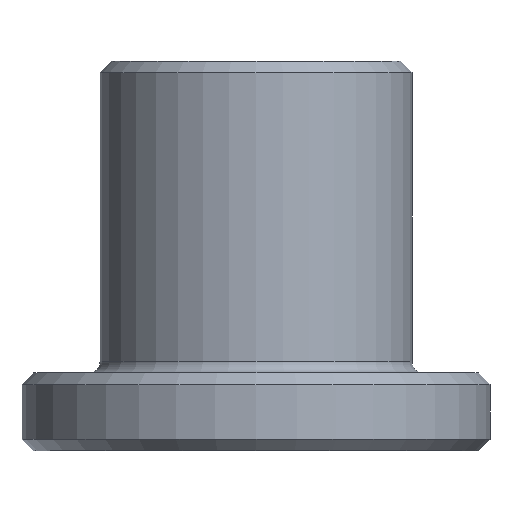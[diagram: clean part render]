
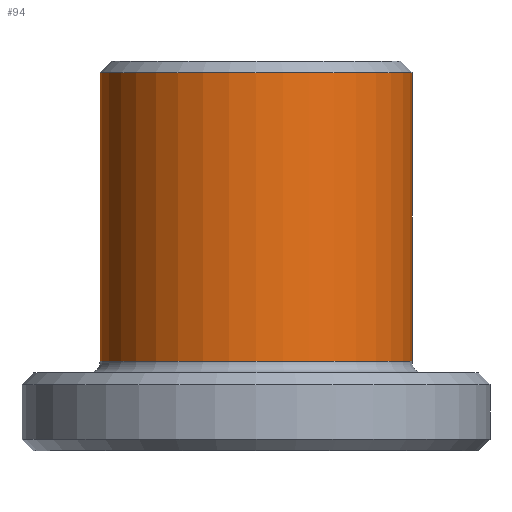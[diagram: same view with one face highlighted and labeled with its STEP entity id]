
A CAD part, front view. The second image highlights one B-rep face of the part: STEP entity #94.
In plain terms, the highlighted cylindrical face has radius 4 mm (diameter 8 mm), a partial arc.
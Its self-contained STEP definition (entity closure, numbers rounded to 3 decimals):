
#19 = DIRECTION ( 'NONE',  ( 0., 0., 1. ) ) ;
#40 = EDGE_CURVE ( 'NONE', #423, #520, #147, .T. ) ;
#44 = CIRCLE ( 'NONE', #501, 4. ) ;
#57 = CARTESIAN_POINT ( 'NONE',  ( -4., 0., -7.7 ) ) ;
#59 = ORIENTED_EDGE ( 'NONE', *, *, #514, .F. ) ;
#72 = DIRECTION ( 'NONE',  ( 0., 0., -1. ) ) ;
#84 = ORIENTED_EDGE ( 'NONE', *, *, #453, .T. ) ;
#94 = ADVANCED_FACE ( 'NONE', ( #532 ), #334, .T. ) ;
#113 = EDGE_CURVE ( 'NONE', #268, #423, #44, .T. ) ;
#126 = DIRECTION ( 'NONE',  ( 0., 0., 1. ) ) ;
#147 = LINE ( 'NONE', #288, #319 ) ;
#150 = DIRECTION ( 'NONE',  ( 1., 0., 0. ) ) ;
#151 = LINE ( 'NONE', #160, #193 ) ;
#160 = CARTESIAN_POINT ( 'NONE',  ( -4., 0., 0. ) ) ;
#161 = CARTESIAN_POINT ( 'NONE',  ( 0., 0., -7.7 ) ) ;
#162 = VERTEX_POINT ( 'NONE', #464 ) ;
#193 = VECTOR ( 'NONE', #343, 1000. ) ;
#199 = CARTESIAN_POINT ( 'NONE',  ( 0., 0., -0.3 ) ) ;
#208 = DIRECTION ( 'NONE',  ( 1., 0., 0. ) ) ;
#268 = VERTEX_POINT ( 'NONE', #57 ) ;
#288 = CARTESIAN_POINT ( 'NONE',  ( 4., 0., 0. ) ) ;
#299 = CIRCLE ( 'NONE', #322, 4. ) ;
#319 = VECTOR ( 'NONE', #19, 1000. ) ;
#322 = AXIS2_PLACEMENT_3D ( 'NONE', #199, #72, #150 ) ;
#334 = CYLINDRICAL_SURFACE ( 'NONE', #426, 4. ) ;
#343 = DIRECTION ( 'NONE',  ( 0., 0., 1. ) ) ;
#400 = CARTESIAN_POINT ( 'NONE',  ( 0., 0., 0. ) ) ;
#423 = VERTEX_POINT ( 'NONE', #527 ) ;
#426 = AXIS2_PLACEMENT_3D ( 'NONE', #400, #126, #494 ) ;
#453 = EDGE_CURVE ( 'NONE', #520, #162, #299, .T. ) ;
#464 = CARTESIAN_POINT ( 'NONE',  ( -4., 0., -0.3 ) ) ;
#488 = DIRECTION ( 'NONE',  ( 0., 0., 1. ) ) ;
#492 = ORIENTED_EDGE ( 'NONE', *, *, #40, .T. ) ;
#494 = DIRECTION ( 'NONE',  ( 1., 0., 0. ) ) ;
#501 = AXIS2_PLACEMENT_3D ( 'NONE', #161, #488, #208 ) ;
#514 = EDGE_CURVE ( 'NONE', #268, #162, #151, .T. ) ;
#520 = VERTEX_POINT ( 'NONE', #575 ) ;
#527 = CARTESIAN_POINT ( 'NONE',  ( 4., 0., -7.7 ) ) ;
#532 = FACE_OUTER_BOUND ( 'NONE', #558, .T. ) ;
#558 = EDGE_LOOP ( 'NONE', ( #59, #595, #492, #84 ) ) ;
#575 = CARTESIAN_POINT ( 'NONE',  ( 4., 0., -0.3 ) ) ;
#595 = ORIENTED_EDGE ( 'NONE', *, *, #113, .T. ) ;
